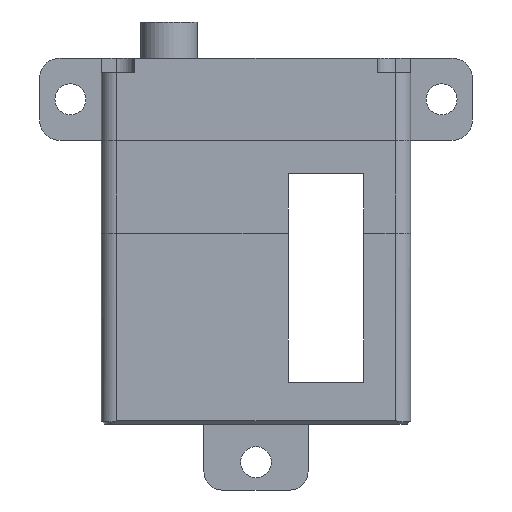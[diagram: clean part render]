
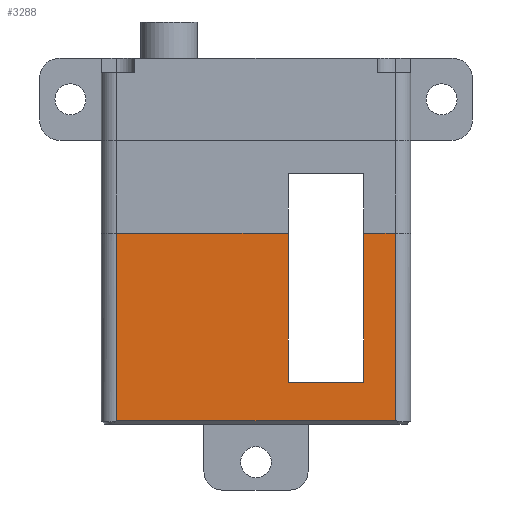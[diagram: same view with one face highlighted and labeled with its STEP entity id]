
A CAD part, front view. The second image highlights one B-rep face of the part: STEP entity #3288.
In plain terms, the highlighted planar face has unit normal (0, -1, 0).
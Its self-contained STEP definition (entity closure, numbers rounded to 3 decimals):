
#93 = PLANE ( 'NONE',  #5113 ) ;
#605 = DIRECTION ( 'NONE',  ( -1., 0., 0. ) ) ;
#689 = CARTESIAN_POINT ( 'NONE',  ( 15., -5., -27.2 ) ) ;
#755 = CARTESIAN_POINT ( 'NONE',  ( 3.11, -5., -9. ) ) ;
#974 = VERTEX_POINT ( 'NONE', #4846 ) ;
#1018 = VECTOR ( 'NONE', #605, 1000. ) ;
#1064 = CARTESIAN_POINT ( 'NONE',  ( 13.5, -5., -9. ) ) ;
#1271 = VERTEX_POINT ( 'NONE', #2810 ) ;
#1291 = VECTOR ( 'NONE', #8136, 1000. ) ;
#1338 = DIRECTION ( 'NONE',  ( -1., 0., 0. ) ) ;
#1437 = DIRECTION ( 'NONE',  ( 0., 0., 1. ) ) ;
#1888 = FACE_OUTER_BOUND ( 'NONE', #8108, .T. ) ;
#2158 = EDGE_CURVE ( 'NONE', #7935, #974, #7978, .T. ) ;
#2248 = EDGE_CURVE ( 'NONE', #2753, #1271, #6704, .T. ) ;
#2371 = VECTOR ( 'NONE', #1338, 1000. ) ;
#2535 = VECTOR ( 'NONE', #8129, 1000. ) ;
#2675 = CARTESIAN_POINT ( 'NONE',  ( 0., -5., -9. ) ) ;
#2726 = CARTESIAN_POINT ( 'NONE',  ( 15., -5., -23.45 ) ) ;
#2750 = CARTESIAN_POINT ( 'NONE',  ( 15., -5., -9. ) ) ;
#2753 = VERTEX_POINT ( 'NONE', #1064 ) ;
#2765 = LINE ( 'NONE', #689, #5712 ) ;
#2802 = VERTEX_POINT ( 'NONE', #5115 ) ;
#2810 = CARTESIAN_POINT ( 'NONE',  ( 10.44, -5., -9. ) ) ;
#2834 = LINE ( 'NONE', #8715, #1018 ) ;
#3104 = DIRECTION ( 'NONE',  ( 0., 0., 1. ) ) ;
#3288 = ADVANCED_FACE ( 'NONE', ( #1888 ), #93, .T. ) ;
#3305 = CARTESIAN_POINT ( 'NONE',  ( -13.5, -5., -27.2 ) ) ;
#3330 = LINE ( 'NONE', #7772, #4886 ) ;
#3343 = ORIENTED_EDGE ( 'NONE', *, *, #5585, .T. ) ;
#3405 = CARTESIAN_POINT ( 'NONE',  ( 10.44, -5., -9. ) ) ;
#3519 = VECTOR ( 'NONE', #5278, 1000. ) ;
#3596 = ORIENTED_EDGE ( 'NONE', *, *, #4863, .T. ) ;
#3941 = VERTEX_POINT ( 'NONE', #3305 ) ;
#4031 = ORIENTED_EDGE ( 'NONE', *, *, #7104, .T. ) ;
#4715 = VECTOR ( 'NONE', #1437, 1000. ) ;
#4846 = CARTESIAN_POINT ( 'NONE',  ( 3.11, -5., -23.45 ) ) ;
#4863 = EDGE_CURVE ( 'NONE', #974, #8523, #6733, .T. ) ;
#4886 = VECTOR ( 'NONE', #3104, 1000. ) ;
#4912 = ORIENTED_EDGE ( 'NONE', *, *, #5231, .T. ) ;
#4964 = ORIENTED_EDGE ( 'NONE', *, *, #2158, .T. ) ;
#5113 = AXIS2_PLACEMENT_3D ( 'NONE', #2750, #8155, #8191 ) ;
#5115 = CARTESIAN_POINT ( 'NONE',  ( 13.5, -5., -27.2 ) ) ;
#5231 = EDGE_CURVE ( 'NONE', #1271, #7935, #7100, .T. ) ;
#5278 = DIRECTION ( 'NONE',  ( 0., 0., -1. ) ) ;
#5329 = ORIENTED_EDGE ( 'NONE', *, *, #5898, .T. ) ;
#5370 = EDGE_CURVE ( 'NONE', #5731, #3941, #7619, .T. ) ;
#5585 = EDGE_CURVE ( 'NONE', #3941, #2802, #2765, .T. ) ;
#5712 = VECTOR ( 'NONE', #8111, 1000. ) ;
#5731 = VERTEX_POINT ( 'NONE', #7000 ) ;
#5898 = EDGE_CURVE ( 'NONE', #2802, #2753, #3330, .T. ) ;
#6266 = ORIENTED_EDGE ( 'NONE', *, *, #5370, .T. ) ;
#6704 = LINE ( 'NONE', #2675, #2535 ) ;
#6733 = LINE ( 'NONE', #755, #4715 ) ;
#7000 = CARTESIAN_POINT ( 'NONE',  ( -13.5, -5., -9. ) ) ;
#7100 = LINE ( 'NONE', #3405, #1291 ) ;
#7104 = EDGE_CURVE ( 'NONE', #8523, #5731, #2834, .T. ) ;
#7619 = LINE ( 'NONE', #8628, #3519 ) ;
#7772 = CARTESIAN_POINT ( 'NONE',  ( 13.5, -5., -9. ) ) ;
#7935 = VERTEX_POINT ( 'NONE', #8225 ) ;
#7978 = LINE ( 'NONE', #2726, #2371 ) ;
#8108 = EDGE_LOOP ( 'NONE', ( #6266, #3343, #5329, #8410, #4912, #4964, #3596, #4031 ) ) ;
#8111 = DIRECTION ( 'NONE',  ( 1., 0., 0. ) ) ;
#8129 = DIRECTION ( 'NONE',  ( -1., 0., 0. ) ) ;
#8136 = DIRECTION ( 'NONE',  ( 0., 0., -1. ) ) ;
#8155 = DIRECTION ( 'NONE',  ( 0., -1., 0. ) ) ;
#8191 = DIRECTION ( 'NONE',  ( 0., 0., -1. ) ) ;
#8225 = CARTESIAN_POINT ( 'NONE',  ( 10.44, -5., -23.45 ) ) ;
#8329 = CARTESIAN_POINT ( 'NONE',  ( 3.11, -5., -9. ) ) ;
#8410 = ORIENTED_EDGE ( 'NONE', *, *, #2248, .T. ) ;
#8523 = VERTEX_POINT ( 'NONE', #8329 ) ;
#8628 = CARTESIAN_POINT ( 'NONE',  ( -13.5, -5., -9. ) ) ;
#8715 = CARTESIAN_POINT ( 'NONE',  ( 15., -5., -9. ) ) ;
